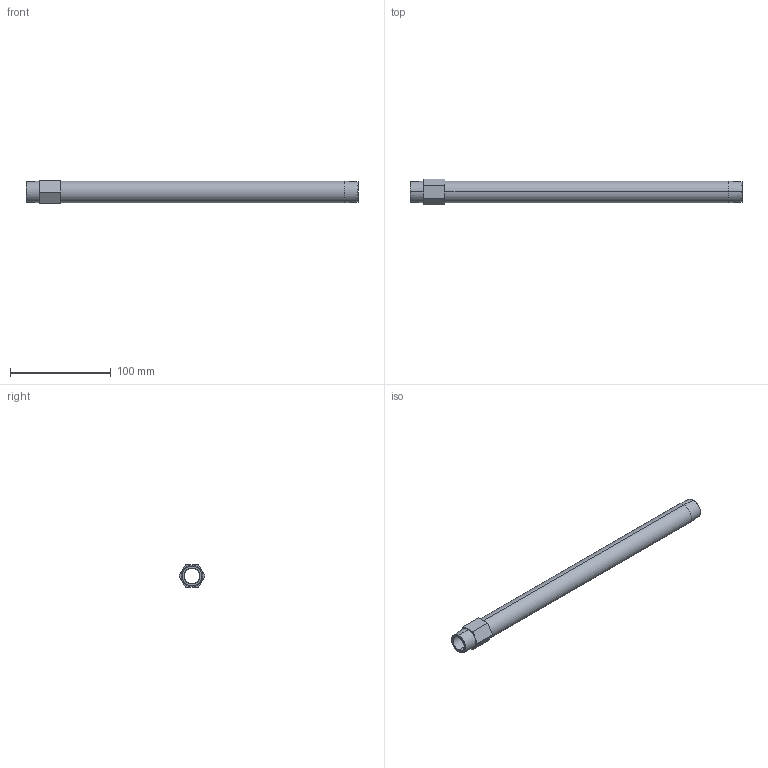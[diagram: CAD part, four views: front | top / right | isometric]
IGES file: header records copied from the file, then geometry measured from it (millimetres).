
Start section: SolidWorks IGES file using analytic representation for surfaces
Global section: file name: C:\Users\365admin\AppData\Local\Temp\InFlowXlateWorking\APN50L13.igs; native system: SolidWorks 2018; preprocessor: SolidWorks 2018; author: 365admin; date: 200818.215057; units: inch
Bounding box: 330.2 x 25.52 x 22.1 mm (x, y, z)
Surface area: 39027.5 mm2 (no closed solid volume)
Topology: 0 solids, 0 shells, 18 faces, 260 edges, 260 vertices
Faces by surface type: bspline 10, revolution 8
